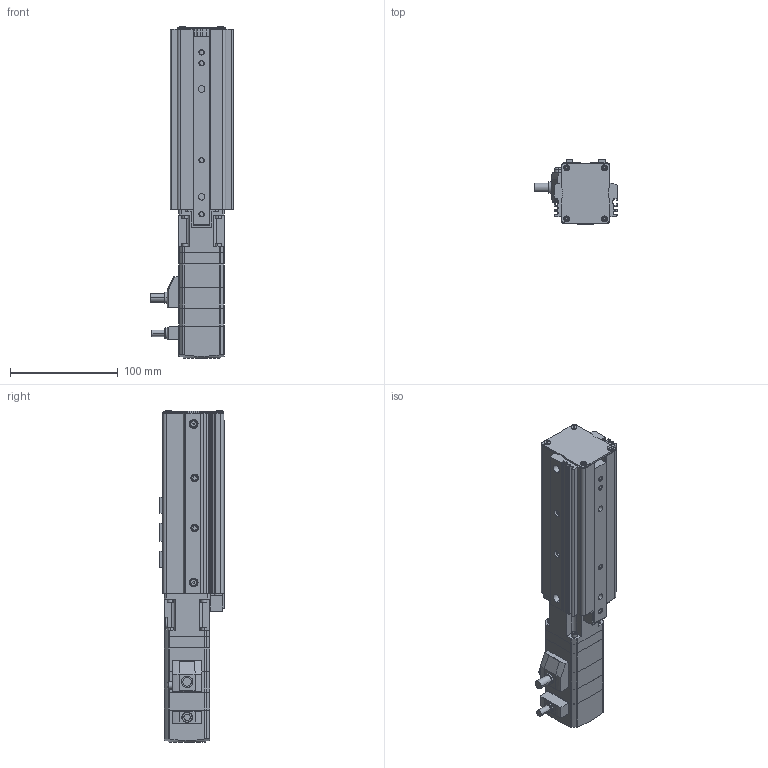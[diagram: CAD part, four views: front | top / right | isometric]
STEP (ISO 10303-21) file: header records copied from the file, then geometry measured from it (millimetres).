
FILE_DESCRIPTION (( 'STEP AP203' ), '1' );
FILE_NAME ('EASM4YD005ARMC.step', '2013-10-09T07:15:42', ( 'om' ), ( 'Hewlett-Packard Company' ), 'SwSTEP 2.0', 'SolidWorks 2011', '' );
FILE_SCHEMA (( 'CONFIG_CONTROL_DESIGN' ));
Length unit declared in the file: millimetre
Products named in the file (4): EASM4YD005ARMC; EASM4YD005ARMC_Table; EASM4YD005ARMC_BASE; EASM4YD005ARMC_Motor
Assembly tree (3 placements, depth 2):
  EASM4YD005ARMC
    EASM4YD005ARMC_Table
    EASM4YD005ARMC_BASE
    EASM4YD005ARMC_Motor
Bounding box: 76.2 x 60 x 307.8 mm (x, y, z)
Volume: 575227.5 mm3; surface area: 147118.9 mm2
Topology: 3 solids, 13 shells, 1130 faces, 2940 edges, 1921 vertices
Faces by surface type: plane 633, cylinder 415, cone 44, torus 30, bspline 6, sphere 2
Entity records: 35256 total; most frequent: CARTESIAN_POINT 6295, DIRECTION 6078, ORIENTED_EDGE 5848, EDGE_CURVE 2924, AXIS2_PLACEMENT_3D 2060, VECTOR 1958, LINE 1958, VERTEX_POINT 1921
